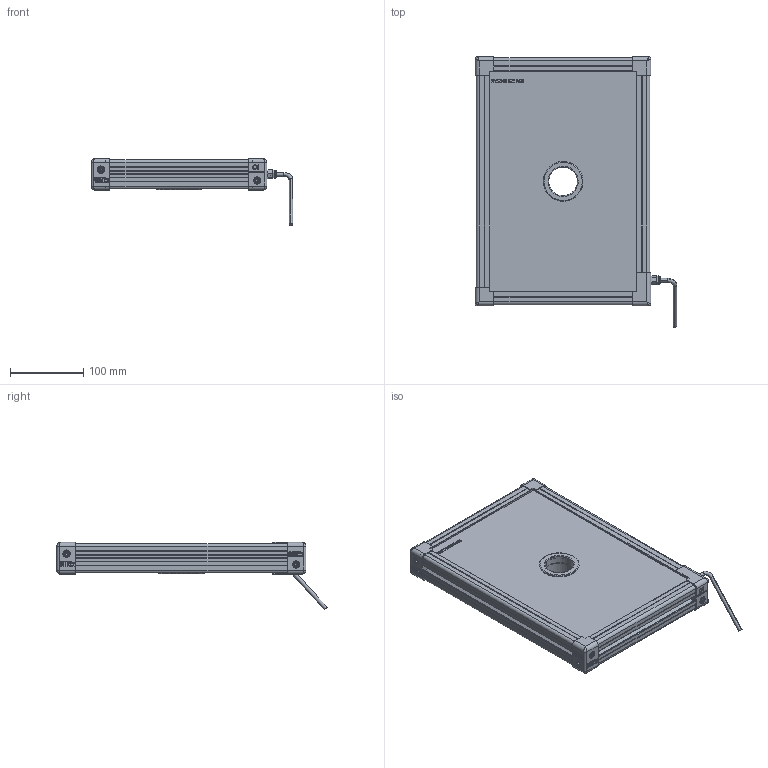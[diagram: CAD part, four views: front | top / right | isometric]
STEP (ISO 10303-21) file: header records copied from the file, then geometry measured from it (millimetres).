
FILE_DESCRIPTION (( 'STEP AP214' ), '1' );
FILE_NAME ('EFFI-FD-200-250-ZZZ-1M12.STEP', '2021-06-18T14:53:41', ( '' ), ( '' ), 'SwSTEP 2.0', 'SolidWorks 2021', '' );
FILE_SCHEMA (( 'AUTOMOTIVE_DESIGN' ));
Length unit declared in the file: millimetre
Products named in the file (13): cordon_Avec cable; Pièce13^EFFI-FD-XXX-YYY-ZZZ (1connecteur) Ø39; petite joue; 001035; profile Y_PERCE; 000629; grande joue; profile X_PERCE; petite joue + vis; assemblage Ø39; 001036; 000590; EFFI-FD-200-250-ZZZ-1M12
Assembly tree (21 placements, depth 3):
  EFFI-FD-200-250-ZZZ-1M12
    profile X_PERCE  x2
    profile Y_PERCE  x2
    Pièce13^EFFI-FD-XXX-YYY-ZZZ (1connecteur) Ø39
    petite joue + vis  x3
      petite joue
      000629
    000629  x2
    grande joue
    assemblage Ø39
      001036
      000590  x3
      001035
    cordon_Avec cable
Bounding box: 274.15 x 367.81 x 91.44 mm (x, y, z)
Volume: 2752160 mm3; surface area: 364306.1 mm2
Topology: 22 solids, 28 shells, 3790 faces, 10080 edges, 6629 vertices
Faces by surface type: plane 2363, cylinder 697, bspline 552, cone 150, torus 28
Entity records: 71488 total; most frequent: CARTESIAN_POINT 28200, ORIENTED_EDGE 9066, DIRECTION 7460, EDGE_CURVE 4537, VECTOR 3434, LINE 3434, VERTEX_POINT 3000, AXIS2_PLACEMENT_3D 2013
